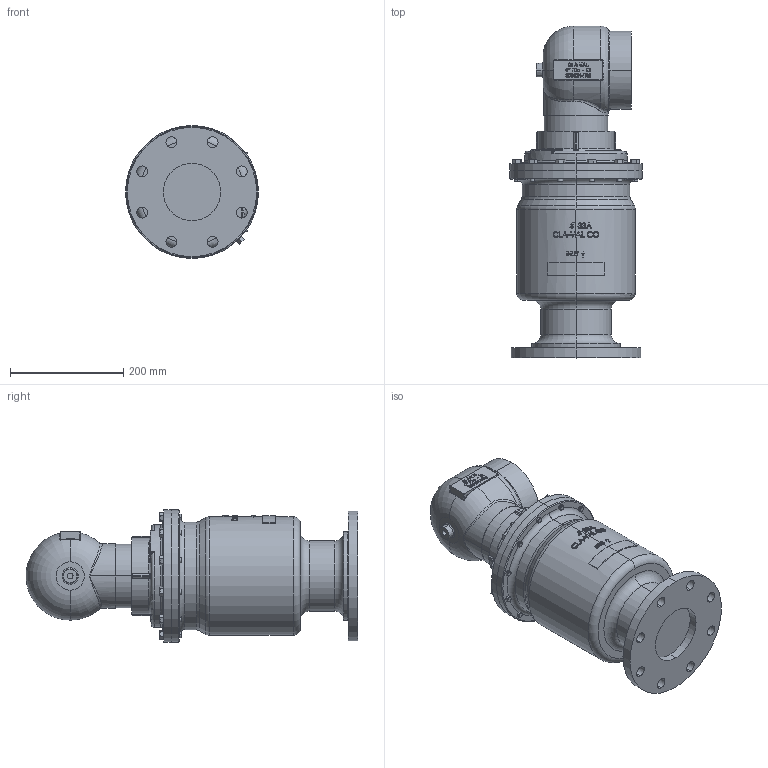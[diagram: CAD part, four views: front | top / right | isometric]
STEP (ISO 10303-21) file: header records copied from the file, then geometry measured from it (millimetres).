
FILE_DESCRIPTION (( 'STEP AP203' ), '1' );
FILE_NAME ('4in 33ATD Flanged FF.STEP', '2020-03-26T16:42:38', ( '' ), ( '' ), 'SwSTEP 2.0', 'SolidWorks 2019', '' );
FILE_SCHEMA (( 'CONFIG_CONTROL_DESIGN' ));
Length unit declared in the file: inch
Products named in the file (8): 203641 4in COVER 33A_NICKEL ALUM BRONZE.STEP; 207174 4in BODY FLANGED 150A 33A_NAB.STEP; Bolt .375-16 UNC  (67605)_1.25   67605-07B.STEP; 4in 33A Flat Face.STEP; 4in 33A Flat Face; 4in 33ATD Flanged FF; .250 NPT SQ HD PIPE PLUG (67660)_STEEL CAD PL.STEP; 4in Throttling Device
Assembly tree (18 placements, depth 4):
  4in 33ATD Flanged FF
    4in 33A Flat Face
      4in 33A Flat Face.STEP
        207174 4in BODY FLANGED 150A 33A_NAB.STEP
        203641 4in COVER 33A_NICKEL ALUM BRONZE.STEP
        Bolt .375-16 UNC  (67605)_1.25   67605-07B.STEP  x12
        .250 NPT SQ HD PIPE PLUG (67660)_STEEL CAD PL.STEP
    4in Throttling Device
Bounding box: 234.95 x 586.43 x 234.95 mm (x, y, z)
Volume: 13630865.3 mm3; surface area: 633672.6 mm2
Topology: 16 solids, 16 shells, 1375 faces, 3405 edges, 2137 vertices
Faces by surface type: plane 554, bspline 332, cylinder 291, cone 155, torus 36, sphere 7
Entity records: 62649 total; most frequent: CARTESIAN_POINT 35728, ORIENTED_EDGE 5896, DIRECTION 4441, EDGE_CURVE 2948, VERTEX_POINT 1871, AXIS2_PLACEMENT_3D 1569, EDGE_LOOP 1309, VECTOR 1303
